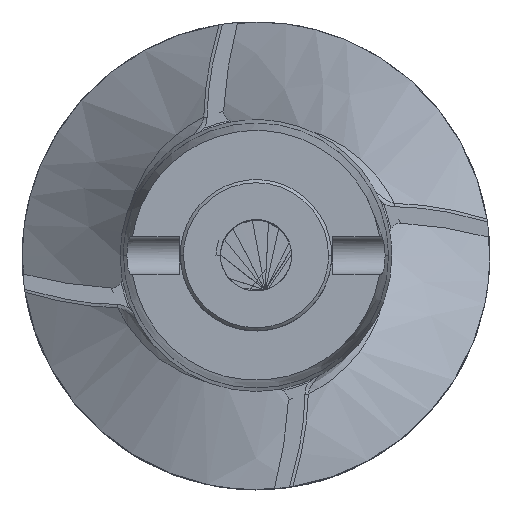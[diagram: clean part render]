
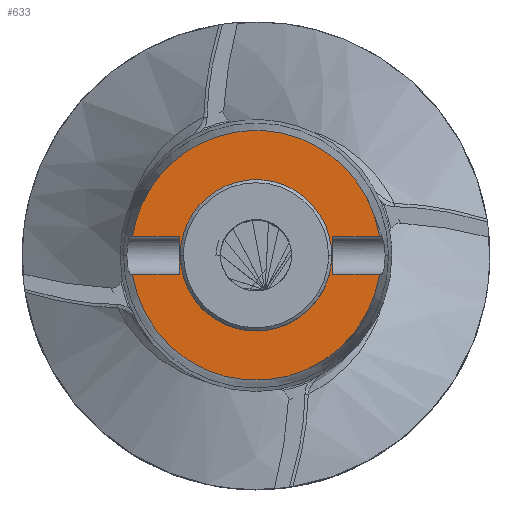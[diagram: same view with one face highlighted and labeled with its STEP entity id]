
A CAD part, top view. The second image highlights one B-rep face of the part: STEP entity #633.
In plain terms, the highlighted planar face has unit normal (0, 0, 1).
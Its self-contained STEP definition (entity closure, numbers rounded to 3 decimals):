
#633=ADVANCED_FACE('',(#2793,#2795),#2797,.F.);
#2793=FACE_BOUND('',#2794,.T.);
#2794=EDGE_LOOP('',(#12403,#12404,#12405,#12406,#12407,#12408,#12409,#12410));
#2795=FACE_BOUND('',#2796,.T.);
#2796=EDGE_LOOP('',(#12411,#12412));
#2797=PLANE('',#2798);
#2798=AXIS2_PLACEMENT_3D('',#2799,#2800,#2801);
#2799=CARTESIAN_POINT('',(19.909,-20.139,-11.4));
#2800=DIRECTION('',(0.,0.,-1.));
#2801=DIRECTION('',(-1.,0.,0.));
#12403=ORIENTED_EDGE('',*,*,#13328,.F.);
#12404=ORIENTED_EDGE('',*,*,#13329,.F.);
#12405=ORIENTED_EDGE('',*,*,#13316,.F.);
#12406=ORIENTED_EDGE('',*,*,#13323,.F.);
#12407=ORIENTED_EDGE('',*,*,#13321,.F.);
#12408=ORIENTED_EDGE('',*,*,#13161,.T.);
#12409=ORIENTED_EDGE('',*,*,#13330,.T.);
#12410=ORIENTED_EDGE('',*,*,#13331,.F.);
#12411=ORIENTED_EDGE('',*,*,#13332,.F.);
#12412=ORIENTED_EDGE('',*,*,#13163,.F.);
#13161=EDGE_CURVE('',#13763,#13761,#13764,.T.);
#13163=EDGE_CURVE('',#13766,#13767,#13768,.T.);
#13316=EDGE_CURVE('',#14011,#14013,#14014,.T.);
#13321=EDGE_CURVE('',#13763,#14018,#14022,.T.);
#13323=EDGE_CURVE('',#14018,#14011,#14024,.T.);
#13328=EDGE_CURVE('',#14029,#14027,#14031,.T.);
#13329=EDGE_CURVE('',#14013,#14029,#14032,.T.);
#13330=EDGE_CURVE('',#13761,#14033,#14034,.T.);
#13331=EDGE_CURVE('',#14027,#14033,#14035,.T.);
#13332=EDGE_CURVE('',#13767,#13766,#14036,.T.);
#13761=VERTEX_POINT('',#17753);
#13763=VERTEX_POINT('',#17760);
#13764=(BOUNDED_CURVE()B_SPLINE_CURVE(3,
(#17761,#17762,#17763,#17764,#17765,#17766,#17767),
.UNSPECIFIED.,.F.,.F.)B_SPLINE_CURVE_WITH_KNOTS((4,3,4),
(0.,0.5,1.),
.UNSPECIFIED.)CURVE()GEOMETRIC_REPRESENTATION_ITEM()RATIONAL_B_SPLINE_CURVE((0.945,
0.807,0.825,1.,0.825,0.807,0.945))
REPRESENTATION_ITEM(''));
#13766=VERTEX_POINT('',#17771);
#13767=VERTEX_POINT('',#17772);
#13768=(BOUNDED_CURVE()B_SPLINE_CURVE(3,
(#17773,#17774,#17775,#17776,#17777,#17778,#17779),
.UNSPECIFIED.,.F.,.F.)B_SPLINE_CURVE_WITH_KNOTS((4,3,4),
(0.,0.5,1.),
.UNSPECIFIED.)CURVE()GEOMETRIC_REPRESENTATION_ITEM()RATIONAL_B_SPLINE_CURVE((1.,
0.805,0.805,1.,0.805,0.805,1.))
REPRESENTATION_ITEM(''));
#14011=VERTEX_POINT('',#24992);
#14013=VERTEX_POINT('',#24996);
#14014=LINE('',#24997,#24998);
#14018=VERTEX_POINT('',#25010);
#14022=LINE('',#25018,#25019);
#14024=LINE('',#25025,#25026);
#14027=VERTEX_POINT('',#25090);
#14029=VERTEX_POINT('',#25094);
#14031=LINE('',#25102,#25103);
#14032=CIRCLE('',#25105,19.9);
#14033=VERTEX_POINT('',#25109);
#14034=LINE('',#25110,#25111);
#14035=LINE('',#25113,#25114);
#14036=(BOUNDED_CURVE()B_SPLINE_CURVE(3,
(#25116,#25117,#25118,#25119),
.UNSPECIFIED.,.F.,.F.)B_SPLINE_CURVE_WITH_KNOTS((4,4),
(0.,1.),
.UNSPECIFIED.)CURVE()GEOMETRIC_REPRESENTATION_ITEM()RATIONAL_B_SPLINE_CURVE((1.,
0.333,0.333,1.))REPRESENTATION_ITEM(''));
#17753=CARTESIAN_POINT('',(-19.673,3.,-11.4));
#17760=CARTESIAN_POINT('',(19.673,3.,-11.4));
#17761=CARTESIAN_POINT('',(19.673,3.,-11.4));
#17762=CARTESIAN_POINT('',(18.102,13.299,-11.4));
#17763=CARTESIAN_POINT('',(10.188,19.9,-11.4));
#17764=CARTESIAN_POINT('',(0.,19.9,-11.4));
#17765=CARTESIAN_POINT('',(-10.188,19.9,-11.4));
#17766=CARTESIAN_POINT('',(-18.102,13.299,-11.4));
#17767=CARTESIAN_POINT('',(-19.673,3.,-11.4));
#17771=CARTESIAN_POINT('',(12.055,0.,-11.4));
#17772=CARTESIAN_POINT('',(-12.055,0.,-11.4));
#17773=CARTESIAN_POINT('',(12.055,0.,-11.4));
#17774=CARTESIAN_POINT('',(12.055,7.062,-11.4));
#17775=CARTESIAN_POINT('',(7.062,12.055,-11.4));
#17776=CARTESIAN_POINT('',(0.,12.055,-11.4));
#17777=CARTESIAN_POINT('',(-7.062,12.055,-11.4));
#17778=CARTESIAN_POINT('',(-12.055,7.062,-11.4));
#17779=CARTESIAN_POINT('',(-12.055,0.,-11.4));
#24992=CARTESIAN_POINT('',(12.2,-3.,-11.4));
#24996=CARTESIAN_POINT('',(19.673,-3.,-11.4));
#24997=CARTESIAN_POINT('',(12.2,-3.,-11.4));
#24998=VECTOR('',#24999,1.);
#24999=DIRECTION('',(1.,0.,0.));
#25010=CARTESIAN_POINT('',(12.2,3.,-11.4));
#25018=CARTESIAN_POINT('',(19.673,3.,-11.4));
#25019=VECTOR('',#25020,1.);
#25020=DIRECTION('',(-1.,0.,0.));
#25025=CARTESIAN_POINT('',(12.2,3.,-11.4));
#25026=VECTOR('',#25027,1.);
#25027=DIRECTION('',(0.,-1.,0.));
#25090=CARTESIAN_POINT('',(-12.2,-3.,-11.4));
#25094=CARTESIAN_POINT('',(-19.673,-3.,-11.4));
#25102=CARTESIAN_POINT('',(-19.673,-3.,-11.4));
#25103=VECTOR('',#25104,1.);
#25104=DIRECTION('',(1.,0.,0.));
#25105=AXIS2_PLACEMENT_3D('',#25106,#25107,#25108);
#25106=CARTESIAN_POINT('',(0.,0.,-11.4));
#25107=DIRECTION('',(0.,0.,-1.));
#25108=DIRECTION('',(0.989,-0.151,0.));
#25109=CARTESIAN_POINT('',(-12.2,3.,-11.4));
#25110=CARTESIAN_POINT('',(-19.673,3.,-11.4));
#25111=VECTOR('',#25112,1.);
#25112=DIRECTION('',(1.,0.,0.));
#25113=CARTESIAN_POINT('',(-12.2,-3.,-11.4));
#25114=VECTOR('',#25115,1.);
#25115=DIRECTION('',(0.,1.,0.));
#25116=CARTESIAN_POINT('',(-12.055,0.,-11.4));
#25117=CARTESIAN_POINT('',(-12.055,-24.11,-11.4));
#25118=CARTESIAN_POINT('',(12.055,-24.11,-11.4));
#25119=CARTESIAN_POINT('',(12.055,0.,-11.4));
